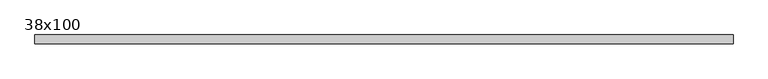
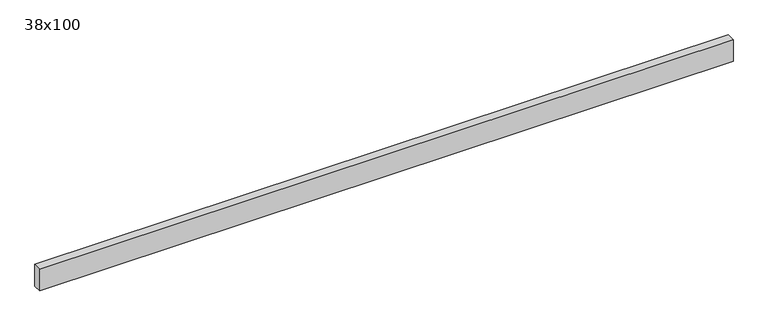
"""IFC4 building model written with IfcOpenShell, lengths in millimetres: beam geometry, Poutre - Bois de construction de dimensions courantes : 38x100."""

from ifc_helpers import new_model, si_unit, frame, origin, place, context, project, spatial, polyline, outline, extrude, source, transform, mapped, element, save


def beam_38x100_539289a3(model_context):
    return source(origin(), model_context, "Body", "SweptSolid", [
        extrude(outline(polyline([(1520.5, 19.05), (1520.5, -19.05), (-1520.5, -19.05), (-1520.5, 19.05), (1520.5, 19.05)])), frame((0.0, 0.0, -50.0), z_axis=(0.0, 0.0, 1.0), x_axis=(1.0, 0.0, 0.0)), (0.0, 0.0, 1.0), 100.0),
    ])


if __name__ == "__main__":
    model = new_model("IFC4")
    model_context = context("Model", 3, world=origin())
    ifc_project = project(units=[si_unit("LENGTHUNIT", "METRE", prefix="MILLI")], contexts=[model_context])
    site = spatial("IfcSite", under=ifc_project)
    building = spatial("IfcBuilding", under=site)
    placement = place(None, origin())
    beam_38x100_shape = beam_38x100_539289a3(model_context)
    element("IfcBeam", 1, ObjectType="Poutre - Bois de construction de dimensions courantes : 38x100", at=placement, inside=building, context=model_context, shape_type="MappedRepresentation", body=[
        mapped(beam_38x100_shape, transform((0.0, 0.0, 0.0), x_axis=(1.0, 0.0, 0.0), y_axis=(0.0, 1.0, 0.0), z_axis=(0.0, 0.0, 1.0))),
    ])
    save(model, "model.ifc")
